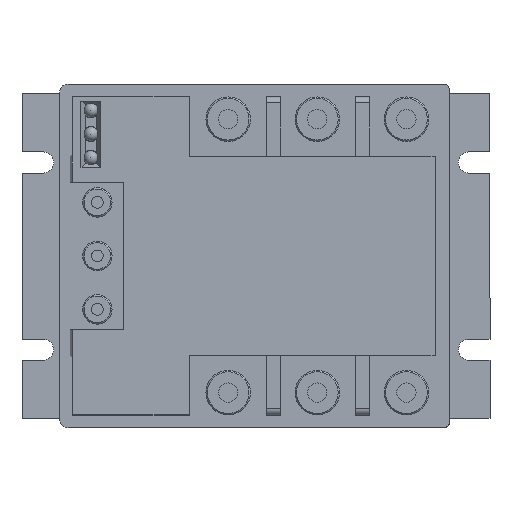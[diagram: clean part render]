
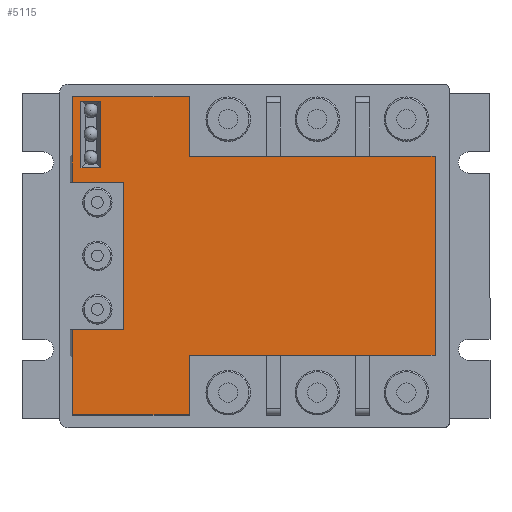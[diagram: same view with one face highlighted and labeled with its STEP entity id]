
A CAD part, top view. The second image highlights one B-rep face of the part: STEP entity #5115.
In plain terms, the highlighted planar face has unit normal (0, 0, 1).
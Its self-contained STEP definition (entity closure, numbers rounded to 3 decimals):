
#760=CARTESIAN_POINT('',(-37.4,33.,39.2));
#761=VERTEX_POINT('',#760);
#776=CARTESIAN_POINT('',(-33.2,33.,39.2));
#777=VERTEX_POINT('',#776);
#784=CARTESIAN_POINT('',(-37.4,33.,39.2));
#785=DIRECTION('',(1.0,0.0,0.0));
#786=VECTOR('',#785,4.2);
#787=LINE('',#784,#786);
#788=EDGE_CURVE('',#761,#777,#787,.T.);
#798=CARTESIAN_POINT('',(-14.25,34.,39.2));
#799=VERTEX_POINT('',#798);
#800=CARTESIAN_POINT('',(-14.25,21.278,39.2));
#801=VERTEX_POINT('',#800);
#802=CARTESIAN_POINT('',(-14.25,34.,39.2));
#803=DIRECTION('',(0.0,-1.0,0.0));
#804=VECTOR('',#803,12.722);
#805=LINE('',#802,#804);
#806=EDGE_CURVE('',#799,#801,#805,.T.);
#1062=CARTESIAN_POINT('',(-33.2,18.84,39.2));
#1063=VERTEX_POINT('',#1062);
#1070=CARTESIAN_POINT('',(-33.2,33.,39.2));
#1071=DIRECTION('',(0.0,-1.0,0.0));
#1072=VECTOR('',#1071,14.16);
#1073=LINE('',#1070,#1072);
#1074=EDGE_CURVE('',#777,#1063,#1073,.T.);
#4340=CARTESIAN_POINT('',(38.25,-21.278,39.2));
#4341=VERTEX_POINT('',#4340);
#4353=CARTESIAN_POINT('',(38.25,21.278,39.2));
#4354=VERTEX_POINT('',#4353);
#4361=CARTESIAN_POINT('',(38.25,21.278,39.2));
#4362=DIRECTION('',(0.0,-1.0,0.0));
#4363=VECTOR('',#4362,42.557);
#4364=LINE('',#4361,#4363);
#4365=EDGE_CURVE('',#4354,#4341,#4364,.T.);
#4378=CARTESIAN_POINT('',(-14.25,-21.278,39.2));
#4379=VERTEX_POINT('',#4378);
#4380=CARTESIAN_POINT('',(38.25,-21.278,39.2));
#4381=DIRECTION('',(-1.0,0.0,0.0));
#4382=VECTOR('',#4381,52.5);
#4383=LINE('',#4380,#4382);
#4384=EDGE_CURVE('',#4341,#4379,#4383,.T.);
#4407=CARTESIAN_POINT('',(-14.25,-34.,39.2));
#4408=VERTEX_POINT('',#4407);
#4417=CARTESIAN_POINT('',(-14.25,-21.278,39.2));
#4418=DIRECTION('',(0.0,-1.0,0.0));
#4419=VECTOR('',#4418,12.722);
#4420=LINE('',#4417,#4419);
#4421=EDGE_CURVE('',#4379,#4408,#4420,.T.);
#4431=CARTESIAN_POINT('',(-39.25,-34.,39.2));
#4432=VERTEX_POINT('',#4431);
#4441=CARTESIAN_POINT('',(-14.25,-34.,39.2));
#4442=DIRECTION('',(-1.0,0.0,0.0));
#4443=VECTOR('',#4442,25.);
#4444=LINE('',#4441,#4443);
#4445=EDGE_CURVE('',#4408,#4432,#4444,.T.);
#4455=CARTESIAN_POINT('',(-39.25,-15.75,39.2));
#4456=VERTEX_POINT('',#4455);
#4465=CARTESIAN_POINT('',(-39.25,-34.,39.2));
#4466=DIRECTION('',(0.0,1.0,0.0));
#4467=VECTOR('',#4466,18.25);
#4468=LINE('',#4465,#4467);
#4469=EDGE_CURVE('',#4432,#4456,#4468,.T.);
#4485=CARTESIAN_POINT('',(-28.35,-15.75,39.2));
#4486=VERTEX_POINT('',#4485);
#4495=CARTESIAN_POINT('',(-39.25,-15.75,39.2));
#4496=DIRECTION('',(1.0,0.0,0.0));
#4497=VECTOR('',#4496,10.9);
#4498=LINE('',#4495,#4497);
#4499=EDGE_CURVE('',#4456,#4486,#4498,.T.);
#4509=CARTESIAN_POINT('',(-28.35,15.75,39.2));
#4510=VERTEX_POINT('',#4509);
#4519=CARTESIAN_POINT('',(-28.35,-15.75,39.2));
#4520=DIRECTION('',(0.0,1.0,0.0));
#4521=VECTOR('',#4520,31.5);
#4522=LINE('',#4519,#4521);
#4523=EDGE_CURVE('',#4486,#4510,#4522,.T.);
#4533=CARTESIAN_POINT('',(-39.25,15.75,39.2));
#4534=VERTEX_POINT('',#4533);
#4545=CARTESIAN_POINT('',(-28.35,15.75,39.2));
#4546=DIRECTION('',(-1.0,0.0,0.0));
#4547=VECTOR('',#4546,10.9);
#4548=LINE('',#4545,#4547);
#4549=EDGE_CURVE('',#4510,#4534,#4548,.T.);
#4561=CARTESIAN_POINT('',(-39.25,34.,39.2));
#4562=VERTEX_POINT('',#4561);
#4563=CARTESIAN_POINT('',(-39.25,15.75,39.2));
#4564=DIRECTION('',(0.0,1.0,0.0));
#4565=VECTOR('',#4564,18.25);
#4566=LINE('',#4563,#4565);
#4567=EDGE_CURVE('',#4534,#4562,#4566,.T.);
#4592=CARTESIAN_POINT('',(-39.25,34.,39.2));
#4593=DIRECTION('',(1.0,0.0,0.0));
#4594=VECTOR('',#4593,25.);
#4595=LINE('',#4592,#4594);
#4596=EDGE_CURVE('',#4562,#799,#4595,.T.);
#4617=CARTESIAN_POINT('',(-14.25,21.278,39.2));
#4618=DIRECTION('',(1.0,0.0,0.0));
#4619=VECTOR('',#4618,52.5);
#4620=LINE('',#4617,#4619);
#4621=EDGE_CURVE('',#801,#4354,#4620,.T.);
#5078=CARTESIAN_POINT('',(41.904,37.179,39.2));
#5079=DIRECTION('',(0.0,0.0,1.0));
#5080=DIRECTION('',(-1.0,0.0,0.0));
#5081=AXIS2_PLACEMENT_3D('',#5078,#5079,#5080);
#5082=PLANE('',#5081);
#5083=ORIENTED_EDGE('',*,*,#4567,.F.);
#5084=ORIENTED_EDGE('',*,*,#4549,.F.);
#5085=ORIENTED_EDGE('',*,*,#4523,.F.);
#5086=ORIENTED_EDGE('',*,*,#4499,.F.);
#5087=ORIENTED_EDGE('',*,*,#4469,.F.);
#5088=ORIENTED_EDGE('',*,*,#4445,.F.);
#5089=ORIENTED_EDGE('',*,*,#4421,.F.);
#5090=ORIENTED_EDGE('',*,*,#4384,.F.);
#5091=ORIENTED_EDGE('',*,*,#4365,.F.);
#5092=ORIENTED_EDGE('',*,*,#4621,.F.);
#5093=ORIENTED_EDGE('',*,*,#806,.F.);
#5094=ORIENTED_EDGE('',*,*,#4596,.F.);
#5095=EDGE_LOOP('',(#5083,#5084,#5085,#5086,#5087,#5088,#5089,#5090,#5091,#5092,#5093,#5094));
#5096=FACE_OUTER_BOUND('',#5095,.T.);
#5097=ORIENTED_EDGE('',*,*,#788,.T.);
#5098=ORIENTED_EDGE('',*,*,#1074,.T.);
#5099=CARTESIAN_POINT('',(-37.4,18.84,39.2));
#5100=VERTEX_POINT('',#5099);
#5101=CARTESIAN_POINT('',(-33.2,18.84,39.2));
#5102=DIRECTION('',(-1.0,0.0,0.0));
#5103=VECTOR('',#5102,4.2);
#5104=LINE('',#5101,#5103);
#5105=EDGE_CURVE('',#1063,#5100,#5104,.T.);
#5106=ORIENTED_EDGE('',*,*,#5105,.T.);
#5107=CARTESIAN_POINT('',(-37.4,18.84,39.2));
#5108=DIRECTION('',(0.0,1.0,0.0));
#5109=VECTOR('',#5108,14.16);
#5110=LINE('',#5107,#5109);
#5111=EDGE_CURVE('',#5100,#761,#5110,.T.);
#5112=ORIENTED_EDGE('',*,*,#5111,.T.);
#5113=EDGE_LOOP('',(#5097,#5098,#5106,#5112));
#5114=FACE_BOUND('',#5113,.T.);
#5115=ADVANCED_FACE('',(#5096,#5114),#5082,.T.);
